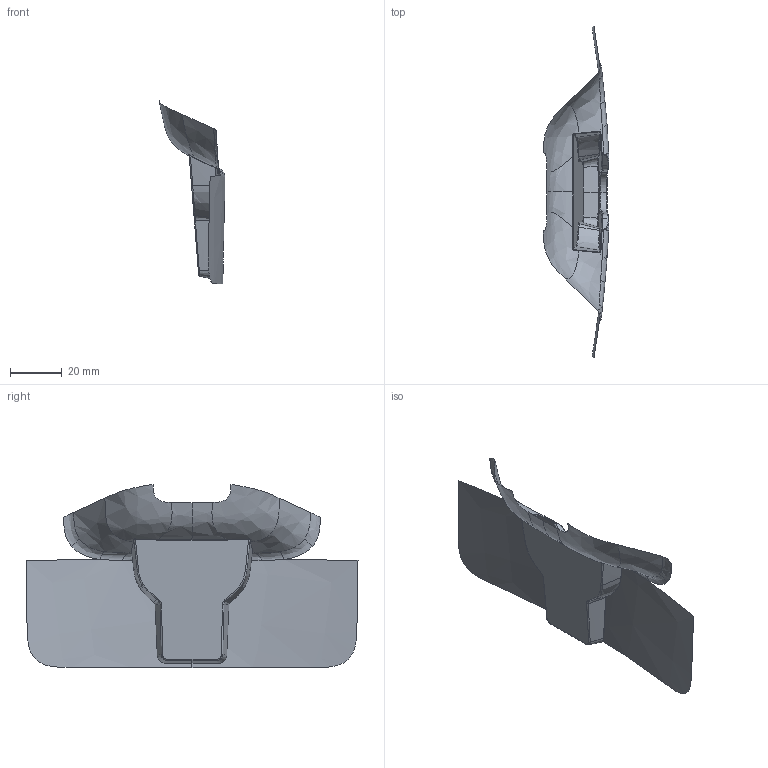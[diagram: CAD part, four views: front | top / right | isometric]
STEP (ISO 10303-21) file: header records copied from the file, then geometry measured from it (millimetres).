
FILE_DESCRIPTION(('CATIA V5 STEP Exchange','CAx-IF Rec.Pracs.--- Model Styling and Organization---1.5--- 2016-08-15','CAx-IF Rec.Pracs.---Supplemental Geometry---1.0---2011-11-01','CAx-IF Rec.Pracs.--- Composite Materials ---3.4---2017-06-13','CAx-IF Rec.Pracs.---Tessellated 3D Geometry---1.0---2015-12-17'),'2;1');
FILE_NAME('C:\Users\gmarsh66\Desktop\misc me\ford\fits accessories\misc\FITS_DIY_CAD_console.stp','2022-01-13T18:42:37+00:00',('none'),('none'),'CATIA Version 5-6 Release 2020 SP3 HF29','CATIA V5 STEP AP242 v2','none');
FILE_SCHEMA(('AP242_MANAGED_MODEL_BASED_3D_ENGINEERING_MIM_LF {1 0 10303 442 1 1 4}'));
Length unit declared in the file: millimetre
Products named in the file (1): FITS_DIY_CAD
Bounding box: 25.4 x 128.04 x 70.61 mm (x, y, z)
Surface area: 10721.3 mm2 (no closed solid volume)
Topology: 0 solids, 1 shells, 124 faces, 380 edges, 251 vertices
Faces by surface type: bspline 119, plane 5
Entity records: 12006 total; most frequent: CARTESIAN_POINT 9740, ORIENTED_EDGE 714, EDGE_CURVE 380, B_SPLINE_CURVE_WITH_KNOTS 379, VERTEX_POINT 251, EDGE_LOOP 124, ADVANCED_FACE 124, FACE_OUTER_BOUND 124
